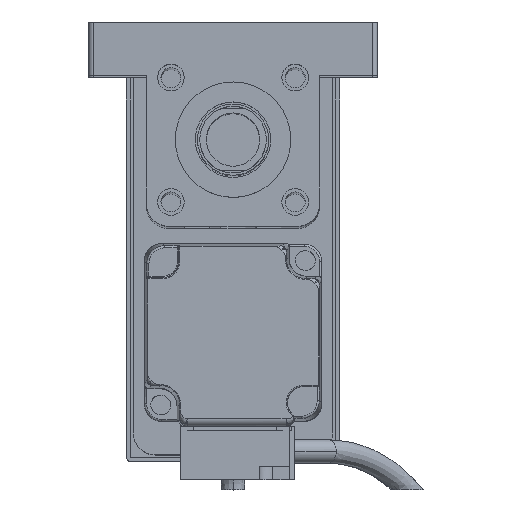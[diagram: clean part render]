
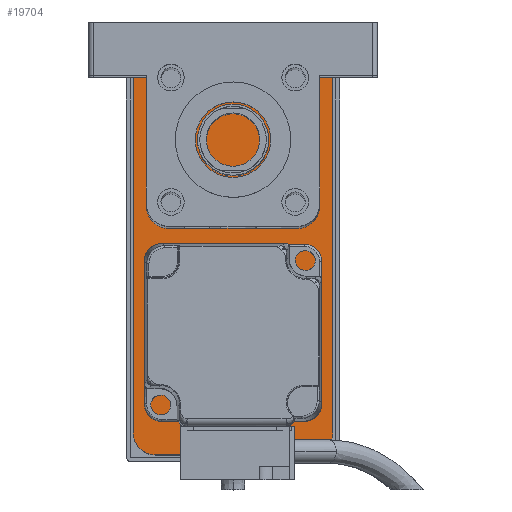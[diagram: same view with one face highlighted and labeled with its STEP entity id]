
A CAD part, top view. The second image highlights one B-rep face of the part: STEP entity #19704.
In plain terms, the highlighted planar face has unit normal (0, 0, 1).
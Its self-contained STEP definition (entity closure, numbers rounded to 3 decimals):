
#329 = CIRCLE ( 'NONE', #11376, 5. ) ;
#560 = ORIENTED_EDGE ( 'NONE', *, *, #7517, .T. ) ;
#739 = DIRECTION ( 'NONE',  ( 0., 1., 0. ) ) ;
#860 = VERTEX_POINT ( 'NONE', #25211 ) ;
#1233 = DIRECTION ( 'NONE',  ( 0., 0., 1. ) ) ;
#1492 = EDGE_CURVE ( 'NONE', #2506, #11766, #6980, .T. ) ;
#2456 = CARTESIAN_POINT ( 'NONE',  ( -22.5, -40., 10. ) ) ;
#2506 = VERTEX_POINT ( 'NONE', #24849 ) ;
#2511 = CARTESIAN_POINT ( 'NONE',  ( -17.5, -40., 10. ) ) ;
#2660 = VECTOR ( 'NONE', #7317, 1000. ) ;
#2728 = DIRECTION ( 'NONE',  ( 0., 0., 1. ) ) ;
#3317 = CARTESIAN_POINT ( 'NONE',  ( 22.5, 40., 10. ) ) ;
#5804 = DIRECTION ( 'NONE',  ( 1., 0., 0. ) ) ;
#5861 = ORIENTED_EDGE ( 'NONE', *, *, #1492, .T. ) ;
#6056 = CARTESIAN_POINT ( 'NONE',  ( 17.5, 40., 10. ) ) ;
#6494 = DIRECTION ( 'NONE',  ( 0., -1., 0. ) ) ;
#6921 = AXIS2_PLACEMENT_3D ( 'NONE', #9071, #1233, #24666 ) ;
#6980 = CIRCLE ( 'NONE', #12426, 5. ) ;
#7239 = CARTESIAN_POINT ( 'NONE',  ( 22.5, -45., 10. ) ) ;
#7248 = VECTOR ( 'NONE', #739, 1000. ) ;
#7317 = DIRECTION ( 'NONE',  ( 1., 0., 0. ) ) ;
#7517 = EDGE_CURVE ( 'NONE', #9673, #20663, #23652, .T. ) ;
#7904 = CARTESIAN_POINT ( 'NONE',  ( 22.5, 45., 10. ) ) ;
#8063 = AXIS2_PLACEMENT_3D ( 'NONE', #6056, #13779, #5804 ) ;
#8472 = CIRCLE ( 'NONE', #9354, 5. ) ;
#8899 = CARTESIAN_POINT ( 'NONE',  ( 17.5, -45., 10. ) ) ;
#8957 = VECTOR ( 'NONE', #6494, 1000. ) ;
#9071 = CARTESIAN_POINT ( 'NONE',  ( 0., 0., 10. ) ) ;
#9232 = EDGE_CURVE ( 'NONE', #20663, #15934, #8472, .T. ) ;
#9354 = AXIS2_PLACEMENT_3D ( 'NONE', #14477, #11866, #19664 ) ;
#9673 = VERTEX_POINT ( 'NONE', #10126 ) ;
#10126 = CARTESIAN_POINT ( 'NONE',  ( -17.5, -45., 10. ) ) ;
#10706 = VECTOR ( 'NONE', #17733, 1000. ) ;
#10895 = PLANE ( 'NONE',  #6921 ) ;
#11376 = AXIS2_PLACEMENT_3D ( 'NONE', #2511, #22111, #22290 ) ;
#11766 = VERTEX_POINT ( 'NONE', #17028 ) ;
#11866 = DIRECTION ( 'NONE',  ( 0., 0., 1. ) ) ;
#12426 = AXIS2_PLACEMENT_3D ( 'NONE', #24421, #2728, #12639 ) ;
#12617 = ORIENTED_EDGE ( 'NONE', *, *, #22955, .T. ) ;
#12639 = DIRECTION ( 'NONE',  ( 1., 0., 0. ) ) ;
#13491 = EDGE_LOOP ( 'NONE', ( #14263, #20471, #21240, #5861, #16214, #12617, #560, #21755 ) ) ;
#13779 = DIRECTION ( 'NONE',  ( 0., 0., 1. ) ) ;
#14263 = ORIENTED_EDGE ( 'NONE', *, *, #19612, .T. ) ;
#14477 = CARTESIAN_POINT ( 'NONE',  ( 17.5, -40., 10. ) ) ;
#15934 = VERTEX_POINT ( 'NONE', #18363 ) ;
#15951 = LINE ( 'NONE', #7904, #10706 ) ;
#16214 = ORIENTED_EDGE ( 'NONE', *, *, #22992, .T. ) ;
#16491 = FACE_OUTER_BOUND ( 'NONE', #13491, .T. ) ;
#17028 = CARTESIAN_POINT ( 'NONE',  ( -22.5, 40., 10. ) ) ;
#17636 = VERTEX_POINT ( 'NONE', #2456 ) ;
#17733 = DIRECTION ( 'NONE',  ( -1., 0., 0. ) ) ;
#18363 = CARTESIAN_POINT ( 'NONE',  ( 22.5, -40., 10. ) ) ;
#19612 = EDGE_CURVE ( 'NONE', #15934, #23713, #25496, .T. ) ;
#19664 = DIRECTION ( 'NONE',  ( 1., 0., 0. ) ) ;
#19704 = ADVANCED_FACE ( 'NONE', ( #16491 ), #10895, .T. ) ;
#20471 = ORIENTED_EDGE ( 'NONE', *, *, #20945, .T. ) ;
#20663 = VERTEX_POINT ( 'NONE', #8899 ) ;
#20945 = EDGE_CURVE ( 'NONE', #23713, #860, #22952, .T. ) ;
#21240 = ORIENTED_EDGE ( 'NONE', *, *, #25516, .T. ) ;
#21755 = ORIENTED_EDGE ( 'NONE', *, *, #9232, .T. ) ;
#22111 = DIRECTION ( 'NONE',  ( 0., 0., 1. ) ) ;
#22290 = DIRECTION ( 'NONE',  ( 1., 0., 0. ) ) ;
#22498 = CARTESIAN_POINT ( 'NONE',  ( 22.5, -45., 10. ) ) ;
#22952 = CIRCLE ( 'NONE', #8063, 5. ) ;
#22955 = EDGE_CURVE ( 'NONE', #17636, #9673, #329, .T. ) ;
#22992 = EDGE_CURVE ( 'NONE', #11766, #17636, #25374, .T. ) ;
#23652 = LINE ( 'NONE', #7239, #2660 ) ;
#23713 = VERTEX_POINT ( 'NONE', #3317 ) ;
#24195 = CARTESIAN_POINT ( 'NONE',  ( -22.5, -45., 10. ) ) ;
#24421 = CARTESIAN_POINT ( 'NONE',  ( -17.5, 40., 10. ) ) ;
#24666 = DIRECTION ( 'NONE',  ( 1., 0., 0. ) ) ;
#24849 = CARTESIAN_POINT ( 'NONE',  ( -17.5, 45., 10. ) ) ;
#25211 = CARTESIAN_POINT ( 'NONE',  ( 17.5, 45., 10. ) ) ;
#25374 = LINE ( 'NONE', #24195, #8957 ) ;
#25496 = LINE ( 'NONE', #22498, #7248 ) ;
#25516 = EDGE_CURVE ( 'NONE', #860, #2506, #15951, .T. ) ;
